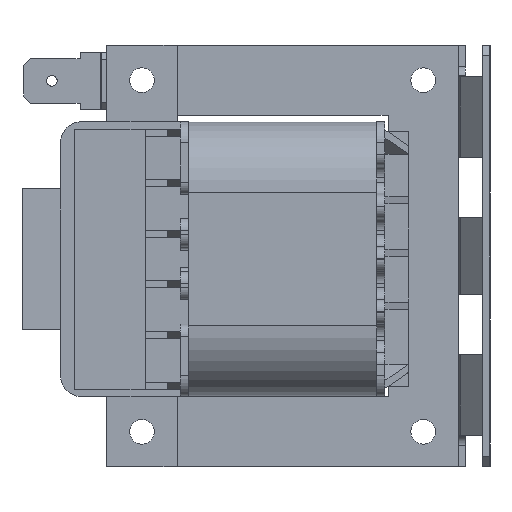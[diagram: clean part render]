
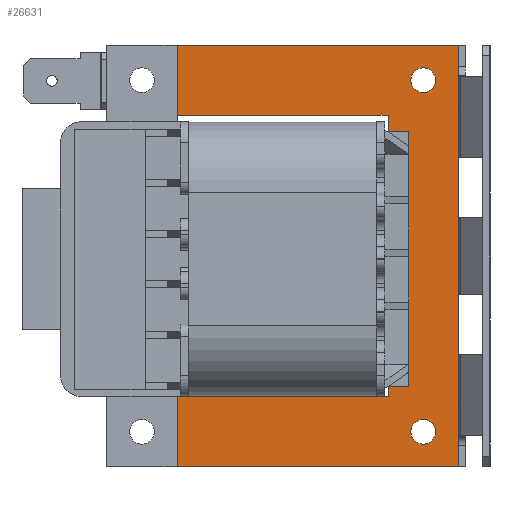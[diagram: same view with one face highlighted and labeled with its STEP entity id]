
A CAD part, left-side view. The second image highlights one B-rep face of the part: STEP entity #26631.
In plain terms, the highlighted planar face has unit normal (-1, 0, 0).
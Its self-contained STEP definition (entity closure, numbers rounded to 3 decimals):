
#326 = VECTOR ( 'NONE', #23442, 1000. ) ;
#386 = LINE ( 'NONE', #23514, #326 ) ;
#550 = CARTESIAN_POINT ( 'NONE',  ( -10.5, 40., -30. ) ) ;
#696 = DIRECTION ( 'NONE',  ( 1., 0., 0. ) ) ;
#1024 = LINE ( 'NONE', #550, #19231 ) ;
#1371 = VERTEX_POINT ( 'NONE', #6076 ) ;
#1401 = VERTEX_POINT ( 'NONE', #19509 ) ;
#1780 = VECTOR ( 'NONE', #21984, 1000. ) ;
#1896 = DIRECTION ( 'NONE',  ( 0., 0., 1. ) ) ;
#1994 = CARTESIAN_POINT ( 'NONE',  ( -10.5, 40., -10. ) ) ;
#2116 = VERTEX_POINT ( 'NONE', #15514 ) ;
#2180 = LINE ( 'NONE', #6721, #14067 ) ;
#2697 = DIRECTION ( 'NONE',  ( 0., 1., 0. ) ) ;
#2871 = VERTEX_POINT ( 'NONE', #16958 ) ;
#3071 = EDGE_CURVE ( 'NONE', #6941, #1401, #21212, .T. ) ;
#3940 = VERTEX_POINT ( 'NONE', #12085 ) ;
#4306 = EDGE_CURVE ( 'NONE', #18492, #16080, #386, .T. ) ;
#5208 = AXIS2_PLACEMENT_3D ( 'NONE', #6267, #11046, #27599 ) ;
#5328 = DIRECTION ( 'NONE',  ( 0., 0., 1. ) ) ;
#5485 = VECTOR ( 'NONE', #13432, 1000. ) ;
#5605 = ORIENTED_EDGE ( 'NONE', *, *, #29787, .F. ) ;
#5696 = LINE ( 'NONE', #5909, #18347 ) ;
#5909 = CARTESIAN_POINT ( 'NONE',  ( -10.5, 40., 20. ) ) ;
#6076 = CARTESIAN_POINT ( 'NONE',  ( -10.5, 5., 23.25 ) ) ;
#6267 = CARTESIAN_POINT ( 'NONE',  ( -10.5, 40., -20. ) ) ;
#6337 = ORIENTED_EDGE ( 'NONE', *, *, #28384, .F. ) ;
#6398 = DIRECTION ( 'NONE',  ( 0., -1., 0. ) ) ;
#6721 = CARTESIAN_POINT ( 'NONE',  ( -10.5, 10., -10. ) ) ;
#6907 = VECTOR ( 'NONE', #2697, 1000. ) ;
#6941 = VERTEX_POINT ( 'NONE', #14954 ) ;
#6969 = VECTOR ( 'NONE', #14072, 1000. ) ;
#7107 = CARTESIAN_POINT ( 'NONE',  ( -10.5, 40., 10. ) ) ;
#7361 = DIRECTION ( 'NONE',  ( 1., 0., 0. ) ) ;
#7736 = EDGE_CURVE ( 'NONE', #15491, #17953, #28193, .T. ) ;
#8218 = CARTESIAN_POINT ( 'NONE',  ( -10.5, 10., 10. ) ) ;
#8498 = ORIENTED_EDGE ( 'NONE', *, *, #27862, .F. ) ;
#8555 = FACE_OUTER_BOUND ( 'NONE', #22355, .T. ) ;
#8609 = PLANE ( 'NONE',  #5208 ) ;
#9252 = ORIENTED_EDGE ( 'NONE', *, *, #4306, .F. ) ;
#9316 = FACE_BOUND ( 'NONE', #20487, .T. ) ;
#9843 = AXIS2_PLACEMENT_3D ( 'NONE', #14911, #696, #17321 ) ;
#10502 = CARTESIAN_POINT ( 'NONE',  ( -10.5, 40., 20. ) ) ;
#10607 = VERTEX_POINT ( 'NONE', #30634 ) ;
#11046 = DIRECTION ( 'NONE',  ( 1., 0., 0. ) ) ;
#11050 = CARTESIAN_POINT ( 'NONE',  ( -10.5, 40., 10. ) ) ;
#11417 = CIRCLE ( 'NONE', #24000, 1.75 ) ;
#12085 = CARTESIAN_POINT ( 'NONE',  ( -10.5, 40., 30. ) ) ;
#12256 = CARTESIAN_POINT ( 'NONE',  ( -10.5, 0., -30. ) ) ;
#12365 = CARTESIAN_POINT ( 'NONE',  ( -10.5, 40., -10. ) ) ;
#12384 = VECTOR ( 'NONE', #16255, 1000. ) ;
#12594 = CARTESIAN_POINT ( 'NONE',  ( -10.5, 10., -20. ) ) ;
#12629 = DIRECTION ( 'NONE',  ( 0., 0., 1. ) ) ;
#12837 = EDGE_CURVE ( 'NONE', #3940, #13096, #30205, .T. ) ;
#13096 = VERTEX_POINT ( 'NONE', #26717 ) ;
#13130 = ORIENTED_EDGE ( 'NONE', *, *, #14518, .F. ) ;
#13432 = DIRECTION ( 'NONE',  ( 0., -1., 0. ) ) ;
#14067 = VECTOR ( 'NONE', #20966, 1000. ) ;
#14072 = DIRECTION ( 'NONE',  ( 0., 1., 0. ) ) ;
#14419 = LINE ( 'NONE', #24245, #1780 ) ;
#14462 = CARTESIAN_POINT ( 'NONE',  ( -10.5, 10., 20. ) ) ;
#14518 = EDGE_CURVE ( 'NONE', #16080, #28842, #20323, .T. ) ;
#14911 = CARTESIAN_POINT ( 'NONE',  ( -10.5, 5., -25. ) ) ;
#14954 = CARTESIAN_POINT ( 'NONE',  ( -10.5, 10., -20. ) ) ;
#15491 = VERTEX_POINT ( 'NONE', #12365 ) ;
#15514 = CARTESIAN_POINT ( 'NONE',  ( -10.5, 5., -26.75 ) ) ;
#15541 = EDGE_CURVE ( 'NONE', #2116, #2116, #30566, .T. ) ;
#16080 = VERTEX_POINT ( 'NONE', #14462 ) ;
#16255 = DIRECTION ( 'NONE',  ( 0., -1., 0. ) ) ;
#16958 = CARTESIAN_POINT ( 'NONE',  ( -10.5, 40., -30. ) ) ;
#17321 = DIRECTION ( 'NONE',  ( 0., 0., -1. ) ) ;
#17613 = ORIENTED_EDGE ( 'NONE', *, *, #7736, .F. ) ;
#17670 = VECTOR ( 'NONE', #1896, 1000. ) ;
#17953 = VERTEX_POINT ( 'NONE', #7107 ) ;
#18347 = VECTOR ( 'NONE', #22519, 1000. ) ;
#18492 = VERTEX_POINT ( 'NONE', #8218 ) ;
#19200 = ORIENTED_EDGE ( 'NONE', *, *, #3071, .F. ) ;
#19231 = VECTOR ( 'NONE', #5328, 1000. ) ;
#19509 = CARTESIAN_POINT ( 'NONE',  ( -10.5, 10., -10. ) ) ;
#19929 = VERTEX_POINT ( 'NONE', #12256 ) ;
#20323 = LINE ( 'NONE', #21697, #6907 ) ;
#20487 = EDGE_LOOP ( 'NONE', ( #22274 ) ) ;
#20617 = CARTESIAN_POINT ( 'NONE',  ( -10.5, 40., 30. ) ) ;
#20717 = ORIENTED_EDGE ( 'NONE', *, *, #23243, .F. ) ;
#20966 = DIRECTION ( 'NONE',  ( 0., 1., 0. ) ) ;
#21178 = EDGE_CURVE ( 'NONE', #1371, #1371, #11417, .T. ) ;
#21212 = LINE ( 'NONE', #12594, #30249 ) ;
#21609 = CARTESIAN_POINT ( 'NONE',  ( -10.5, 5., 25. ) ) ;
#21697 = CARTESIAN_POINT ( 'NONE',  ( -10.5, 10., 20. ) ) ;
#21984 = DIRECTION ( 'NONE',  ( 0., 0., -1. ) ) ;
#22274 = ORIENTED_EDGE ( 'NONE', *, *, #21178, .T. ) ;
#22355 = EDGE_LOOP ( 'NONE', ( #20717, #13130, #9252, #6337, #17613, #5605, #19200, #23645, #29972, #8498, #27583, #24279 ) ) ;
#22519 = DIRECTION ( 'NONE',  ( 0., 0., 1. ) ) ;
#22733 = ORIENTED_EDGE ( 'NONE', *, *, #15541, .T. ) ;
#23243 = EDGE_CURVE ( 'NONE', #28842, #3940, #5696, .T. ) ;
#23442 = DIRECTION ( 'NONE',  ( 0., 0., 1. ) ) ;
#23514 = CARTESIAN_POINT ( 'NONE',  ( -10.5, 10., 10. ) ) ;
#23551 = EDGE_CURVE ( 'NONE', #10607, #6941, #24229, .T. ) ;
#23645 = ORIENTED_EDGE ( 'NONE', *, *, #23551, .F. ) ;
#23982 = DIRECTION ( 'NONE',  ( 0., 0., -1. ) ) ;
#24000 = AXIS2_PLACEMENT_3D ( 'NONE', #21609, #7361, #23982 ) ;
#24229 = LINE ( 'NONE', #30361, #12384 ) ;
#24245 = CARTESIAN_POINT ( 'NONE',  ( -10.5, 0., 30. ) ) ;
#24279 = ORIENTED_EDGE ( 'NONE', *, *, #12837, .F. ) ;
#24422 = LINE ( 'NONE', #11050, #5485 ) ;
#25201 = LINE ( 'NONE', #28228, #6969 ) ;
#26631 = ADVANCED_FACE ( 'NONE', ( #27497, #9316, #8555 ), #8609, .F. ) ;
#26717 = CARTESIAN_POINT ( 'NONE',  ( -10.5, 0., 30. ) ) ;
#27497 = FACE_BOUND ( 'NONE', #30385, .T. ) ;
#27583 = ORIENTED_EDGE ( 'NONE', *, *, #30108, .F. ) ;
#27599 = DIRECTION ( 'NONE',  ( 0., 0., -1. ) ) ;
#27862 = EDGE_CURVE ( 'NONE', #19929, #2871, #25201, .T. ) ;
#28193 = LINE ( 'NONE', #1994, #17670 ) ;
#28228 = CARTESIAN_POINT ( 'NONE',  ( -10.5, 0., -30. ) ) ;
#28384 = EDGE_CURVE ( 'NONE', #17953, #18492, #24422, .T. ) ;
#28842 = VERTEX_POINT ( 'NONE', #10502 ) ;
#29510 = VECTOR ( 'NONE', #6398, 1000. ) ;
#29787 = EDGE_CURVE ( 'NONE', #1401, #15491, #2180, .T. ) ;
#29972 = ORIENTED_EDGE ( 'NONE', *, *, #30604, .F. ) ;
#30108 = EDGE_CURVE ( 'NONE', #13096, #19929, #14419, .T. ) ;
#30205 = LINE ( 'NONE', #20617, #29510 ) ;
#30249 = VECTOR ( 'NONE', #12629, 1000. ) ;
#30361 = CARTESIAN_POINT ( 'NONE',  ( -10.5, 40., -20. ) ) ;
#30385 = EDGE_LOOP ( 'NONE', ( #22733 ) ) ;
#30566 = CIRCLE ( 'NONE', #9843, 1.75 ) ;
#30604 = EDGE_CURVE ( 'NONE', #2871, #10607, #1024, .T. ) ;
#30634 = CARTESIAN_POINT ( 'NONE',  ( -10.5, 40., -20. ) ) ;
